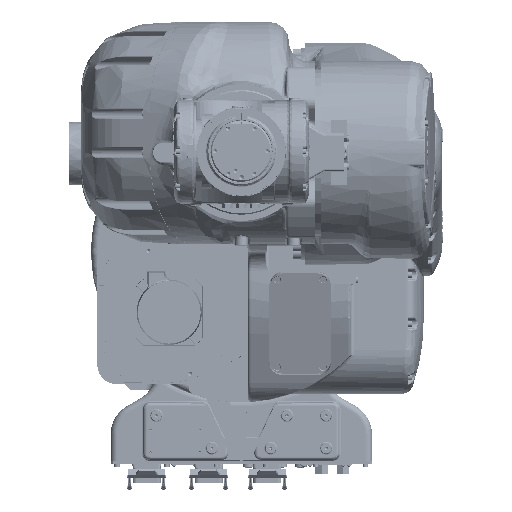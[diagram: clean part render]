
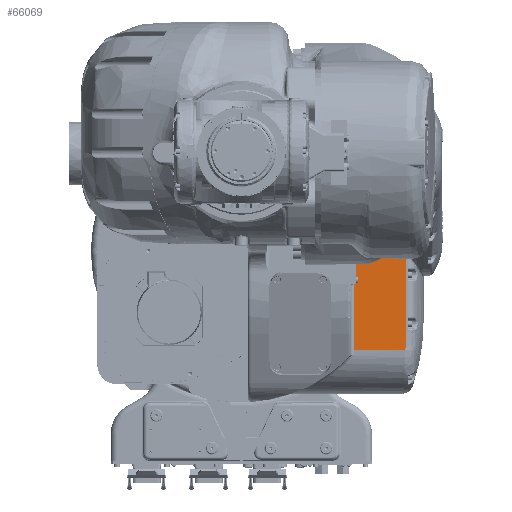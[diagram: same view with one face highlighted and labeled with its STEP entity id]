
A CAD part, top view. The second image highlights one B-rep face of the part: STEP entity #66069.
In plain terms, the highlighted planar face has unit normal (0, 0, 1).
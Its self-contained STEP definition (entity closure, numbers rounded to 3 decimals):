
#61648=CARTESIAN_POINT('Vertex',(252.264,-106.732,-216.)) ;
#61652=CARTESIAN_POINT('Control Point',(251.261,-150.,-216.)) ;
#61653=CARTESIAN_POINT('Control Point',(251.794,-141.035,-216.)) ;
#61654=CARTESIAN_POINT('Control Point',(252.072,-132.273,-216.)) ;
#61655=CARTESIAN_POINT('Control Point',(252.199,-123.692,-216.)) ;
#61656=CARTESIAN_POINT('Control Point',(252.264,-115.214,-216.)) ;
#61657=CARTESIAN_POINT('Control Point',(252.264,-106.732,-216.)) ;
#61658=CARTESIAN_POINT('Vertex',(251.261,-150.,-216.)) ;
#61692=CARTESIAN_POINT('Vertex',(252.264,23.305,-216.)) ;
#61695=CARTESIAN_POINT('Line Origine',(252.264,-63.348,-216.)) ;
#65988=CARTESIAN_POINT('Line Origine',(122.5,19.405,-216.)) ;
#65992=CARTESIAN_POINT('Vertex',(173.,19.405,-216.)) ;
#65994=CARTESIAN_POINT('Vertex',(245.,19.405,-216.)) ;
#66023=CARTESIAN_POINT('Axis2P3D Location',(0.,19.405,-216.)) ;
#66028=CARTESIAN_POINT('Line Origine',(173.,-65.298,-216.)) ;
#66032=CARTESIAN_POINT('Vertex',(173.,-150.,-216.)) ;
#66035=CARTESIAN_POINT('Line Origine',(209.,-150.,-216.)) ;
#66039=CARTESIAN_POINT('Vertex',(245.,-150.,-216.)) ;
#66042=CARTESIAN_POINT('Line Origine',(248.131,-150.,-216.)) ;
#66047=CARTESIAN_POINT('Line Origine',(248.632,23.305,-216.)) ;
#66051=CARTESIAN_POINT('Vertex',(245.,23.305,-216.)) ;
#66054=CARTESIAN_POINT('Line Origine',(245.,21.355,-216.)) ;
#61696=DIRECTION('Vector Direction',(0.,-1.,0.)) ;
#65989=DIRECTION('Vector Direction',(-1.,0.,0.)) ;
#66024=DIRECTION('Axis2P3D Direction',(0.,0.,1.)) ;
#66025=DIRECTION('Axis2P3D XDirection',(0.,-1.,0.)) ;
#66029=DIRECTION('Vector Direction',(0.,-1.,0.)) ;
#66036=DIRECTION('Vector Direction',(-1.,0.,0.)) ;
#66043=DIRECTION('Vector Direction',(1.,0.,0.)) ;
#66048=DIRECTION('Vector Direction',(1.,0.,0.)) ;
#66055=DIRECTION('Vector Direction',(0.,1.,0.)) ;
#66026=AXIS2_PLACEMENT_3D('Plane Axis2P3D',#66023,#66024,#66025) ;
#66060=ORIENTED_EDGE('',*,*,#66034,.T.) ;
#66061=ORIENTED_EDGE('',*,*,#66041,.T.) ;
#66062=ORIENTED_EDGE('',*,*,#66046,.T.) ;
#66063=ORIENTED_EDGE('',*,*,#61660,.F.) ;
#66064=ORIENTED_EDGE('',*,*,#61699,.F.) ;
#66065=ORIENTED_EDGE('',*,*,#66053,.F.) ;
#66066=ORIENTED_EDGE('',*,*,#66058,.T.) ;
#66067=ORIENTED_EDGE('',*,*,#65996,.F.) ;
#61697=VECTOR('Line Direction',#61696,1.) ;
#65990=VECTOR('Line Direction',#65989,1.) ;
#66030=VECTOR('Line Direction',#66029,1.) ;
#66037=VECTOR('Line Direction',#66036,1.) ;
#66044=VECTOR('Line Direction',#66043,1.) ;
#66049=VECTOR('Line Direction',#66048,1.) ;
#66056=VECTOR('Line Direction',#66055,1.) ;
#66069=ADVANCED_FACE('J2',(#66068),#66027,.T.) ;
#61651=B_SPLINE_CURVE_WITH_KNOTS('',5,(#61652,#61653,#61654,#61655,#61656,#61657),.UNSPECIFIED.,.F.,.U.,(6,6),(115.806,159.544),.UNSPECIFIED.) ;
#61660=EDGE_CURVE('',#61649,#61659,#61651,.F.) ;
#61699=EDGE_CURVE('',#61693,#61649,#61698,.T.) ;
#65996=EDGE_CURVE('',#65993,#65995,#65991,.F.) ;
#66034=EDGE_CURVE('',#65993,#66033,#66031,.T.) ;
#66041=EDGE_CURVE('',#66033,#66040,#66038,.F.) ;
#66046=EDGE_CURVE('',#66040,#61659,#66045,.T.) ;
#66053=EDGE_CURVE('',#66052,#61693,#66050,.T.) ;
#66058=EDGE_CURVE('',#66052,#65995,#66057,.F.) ;
#66059=EDGE_LOOP('',(#66060,#66061,#66062,#66063,#66064,#66065,#66066,#66067)) ;
#66068=FACE_OUTER_BOUND('',#66059,.T.) ;
#61698=LINE('Line',#61695,#61697) ;
#65991=LINE('Line',#65988,#65990) ;
#66031=LINE('Line',#66028,#66030) ;
#66038=LINE('Line',#66035,#66037) ;
#66045=LINE('Line',#66042,#66044) ;
#66050=LINE('Line',#66047,#66049) ;
#66057=LINE('Line',#66054,#66056) ;
#66027=PLANE('',#66026) ;
#61649=VERTEX_POINT('',#61648) ;
#61659=VERTEX_POINT('',#61658) ;
#61693=VERTEX_POINT('',#61692) ;
#65993=VERTEX_POINT('',#65992) ;
#65995=VERTEX_POINT('',#65994) ;
#66033=VERTEX_POINT('',#66032) ;
#66040=VERTEX_POINT('',#66039) ;
#66052=VERTEX_POINT('',#66051) ;
